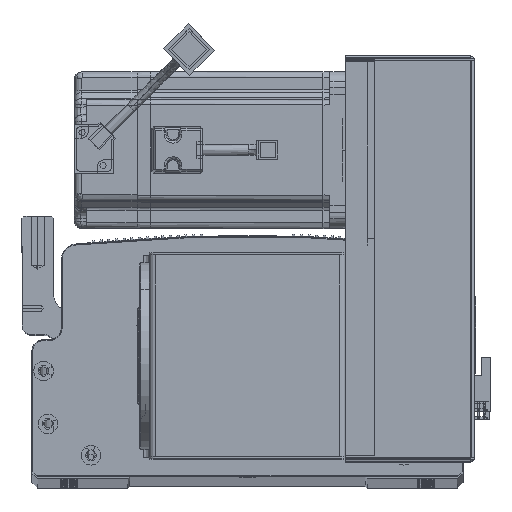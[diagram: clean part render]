
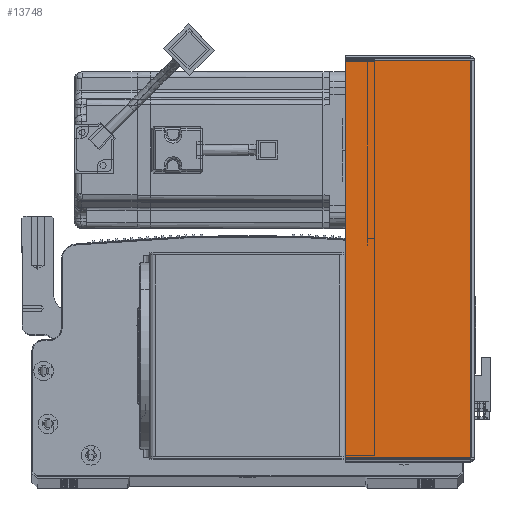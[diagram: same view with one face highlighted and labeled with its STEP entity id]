
A CAD part, top view. The second image highlights one B-rep face of the part: STEP entity #13748.
In plain terms, the highlighted planar face has unit normal (0, 0, 1) as drawn and (0, -1, 0) by its records, which use the part's own axes.
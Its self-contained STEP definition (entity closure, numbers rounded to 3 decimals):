
#665 = LINE ( 'NONE', #28944, #8836 ) ;
#8836 = VECTOR ( 'NONE', #87228, 1000. ) ;
#11030 = CARTESIAN_POINT ( 'NONE',  ( 0.737, -1.5, 0. ) ) ;
#12896 = DIRECTION ( 'NONE',  ( -1., 0., 0. ) ) ;
#13748 = ADVANCED_FACE ( 'NONE', ( #37636 ), #42691, .F. ) ;
#14486 = DIRECTION ( 'NONE',  ( 1., 0., 0. ) ) ;
#14815 = CARTESIAN_POINT ( 'NONE',  ( 0., -1.5, -0.707 ) ) ;
#15561 = CARTESIAN_POINT ( 'NONE',  ( 64.5, -1.5, -203.293 ) ) ;
#20078 = VERTEX_POINT ( 'NONE', #37398 ) ;
#27062 = EDGE_CURVE ( 'NONE', #20078, #79732, #72942, .T. ) ;
#28944 = CARTESIAN_POINT ( 'NONE',  ( 0., -1.5, -203.293 ) ) ;
#30617 = VECTOR ( 'NONE', #95032, 1000. ) ;
#31915 = ORIENTED_EDGE ( 'NONE', *, *, #70270, .F. ) ;
#32873 = CARTESIAN_POINT ( 'NONE',  ( 64.5, -1.5, -0.707 ) ) ;
#36342 = VECTOR ( 'NONE', #14486, 1000. ) ;
#37398 = CARTESIAN_POINT ( 'NONE',  ( 0.737, -1.5, -203.293 ) ) ;
#37636 = FACE_OUTER_BOUND ( 'NONE', #76681, .T. ) ;
#42691 = PLANE ( 'NONE',  #52469 ) ;
#49642 = CARTESIAN_POINT ( 'NONE',  ( 0.737, -1.5, -0.707 ) ) ;
#50643 = DIRECTION ( 'NONE',  ( 0., 0., 1. ) ) ;
#52469 = AXIS2_PLACEMENT_3D ( 'NONE', #94914, #57764, #12896 ) ;
#53087 = VECTOR ( 'NONE', #50643, 1000. ) ;
#57764 = DIRECTION ( 'NONE',  ( 0., 1., 0. ) ) ;
#64593 = ORIENTED_EDGE ( 'NONE', *, *, #69732, .T. ) ;
#67357 = CARTESIAN_POINT ( 'NONE',  ( 64.5, -1.5, 0. ) ) ;
#69732 = EDGE_CURVE ( 'NONE', #80363, #80172, #70471, .T. ) ;
#70270 = EDGE_CURVE ( 'NONE', #79732, #80172, #90112, .T. ) ;
#70471 = LINE ( 'NONE', #67357, #30617 ) ;
#72942 = LINE ( 'NONE', #11030, #53087 ) ;
#76681 = EDGE_LOOP ( 'NONE', ( #89967, #82709, #64593, #31915 ) ) ;
#79732 = VERTEX_POINT ( 'NONE', #49642 ) ;
#80172 = VERTEX_POINT ( 'NONE', #32873 ) ;
#80363 = VERTEX_POINT ( 'NONE', #15561 ) ;
#82709 = ORIENTED_EDGE ( 'NONE', *, *, #93771, .T. ) ;
#87228 = DIRECTION ( 'NONE',  ( 1., 0., 0. ) ) ;
#89967 = ORIENTED_EDGE ( 'NONE', *, *, #27062, .F. ) ;
#90112 = LINE ( 'NONE', #14815, #36342 ) ;
#93771 = EDGE_CURVE ( 'NONE', #20078, #80363, #665, .T. ) ;
#94914 = CARTESIAN_POINT ( 'NONE',  ( 0., -1.5, 0. ) ) ;
#95032 = DIRECTION ( 'NONE',  ( 0., 0., 1. ) ) ;
